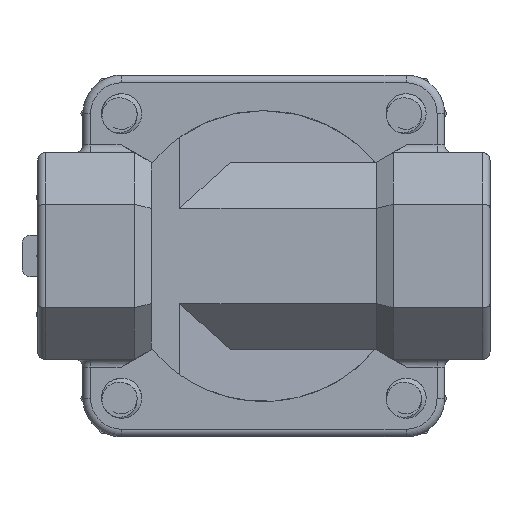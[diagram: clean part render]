
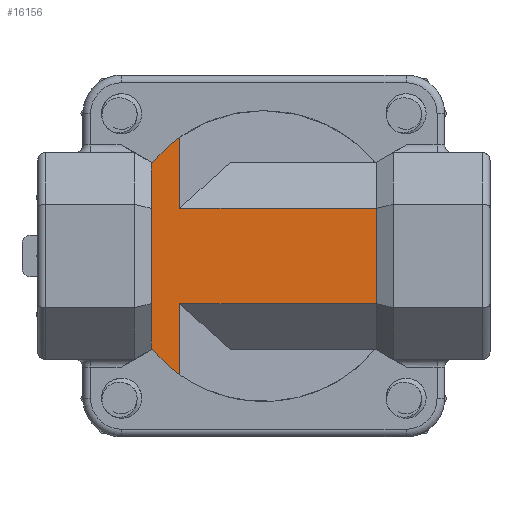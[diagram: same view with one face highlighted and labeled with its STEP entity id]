
A CAD part, front view. The second image highlights one B-rep face of the part: STEP entity #16156.
In plain terms, the highlighted planar face has unit normal (0, -1, 0).
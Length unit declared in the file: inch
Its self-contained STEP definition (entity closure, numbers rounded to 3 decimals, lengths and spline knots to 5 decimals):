
#424 = EDGE_CURVE ( 'Defeatured_0_30+Defeatured_0_43+Defeatured_0_74+Defeatured_0_31', #16525, #12071, #10242, .T. ) ;
#954 = ORIENTED_EDGE ( 'NONE', *, *, #8203, .T. ) ;
#1552 = ORIENTED_EDGE ( 'NONE', *, *, #31944, .T. ) ;
#2005 = LINE ( 'NONE', #34427, #12374 ) ;
#2135 = CARTESIAN_POINT ( 'NONE',  ( 0., -1.35811, 0. ) ) ;
#2502 = CARTESIAN_POINT ( 'NONE',  ( -0.51112, -1.35811, 0.72371 ) ) ;
#2695 = CARTESIAN_POINT ( 'NONE',  ( -0.686, -1.35811, -0.56071 ) ) ;
#3278 = VERTEX_POINT ( 'NONE', #2695 ) ;
#4910 = PLANE ( 'NONE',  #8140 ) ;
#5324 = DIRECTION ( 'NONE',  ( 0., 0., 1. ) ) ;
#5579 = DIRECTION ( 'NONE',  ( 0., 0., 1. ) ) ;
#5676 = EDGE_CURVE ( 'Defeatured_0_43+Defeatured_0_31+Defeatured_0_34+Defeatured_0_30', #19292, #12071, #30417, .T. ) ;
#5938 = EDGE_CURVE ( 'Defeatured_0_29+Defeatured_0_43+Defeatured_0_32+Defeatured_0_76', #3278, #6755, #26583, .T. ) ;
#6140 = AXIS2_PLACEMENT_3D ( 'NONE', #2135, #7715, #21427 ) ;
#6755 = VERTEX_POINT ( 'NONE', #18974 ) ;
#7421 = FACE_OUTER_BOUND ( 'NONE', #13028, .T. ) ;
#7715 = DIRECTION ( 'NONE',  ( 0., -1., 0. ) ) ;
#7796 = ORIENTED_EDGE ( 'NONE', *, *, #33052, .T. ) ;
#8140 = AXIS2_PLACEMENT_3D ( 'NONE', #12791, #24010, #18482 ) ;
#8203 = EDGE_CURVE ( 'Defeatured_0_43+Defeatured_0_42+Defeatured_0_33+Defeatured_0_70', #10925, #27782, #17290, .T. ) ;
#9406 = EDGE_CURVE ( 'Defeatured_0_43+Defeatured_0_75+Defeatured_0_30+Defeatured_0_29', #16525, #6755, #2005, .T. ) ;
#9468 = CARTESIAN_POINT ( 'NONE',  ( -0.51112, -1.35811, 0. ) ) ;
#9642 = ORIENTED_EDGE ( 'NONE', *, *, #22944, .T. ) ;
#10242 = LINE ( 'NONE', #29765, #10889 ) ;
#10889 = VECTOR ( 'NONE', #29396, 39.37008 ) ;
#10925 = VERTEX_POINT ( 'NONE', #19682 ) ;
#10948 = CARTESIAN_POINT ( 'NONE',  ( -0.51112, -1.35811, 0.29061 ) ) ;
#11182 = EDGE_CURVE ( 'Defeatured_0_43+Defeatured_0_32+Defeatured_0_29+Defeatured_0_33', #3278, #25370, #22119, .T. ) ;
#11376 = CARTESIAN_POINT ( 'NONE',  ( 0.686, -1.35811, -0.29061 ) ) ;
#12071 = VERTEX_POINT ( 'NONE', #31159 ) ;
#12175 = VECTOR ( 'NONE', #14756, 39.37008 ) ;
#12374 = VECTOR ( 'NONE', #17761, 39.37008 ) ;
#12632 = ORIENTED_EDGE ( 'NONE', *, *, #9406, .T. ) ;
#12791 = CARTESIAN_POINT ( 'NONE',  ( -2.46234, -1.35811, 0.29061 ) ) ;
#13028 = EDGE_LOOP ( 'NONE', ( #954, #7796, #29804, #1552, #18671, #30918, #12632, #31060, #17057, #9642 ) ) ;
#14258 = CARTESIAN_POINT ( 'NONE',  ( -2.46234, -1.35811, -0.29061 ) ) ;
#14756 = DIRECTION ( 'NONE',  ( 1., 0., 0. ) ) ;
#14945 = LINE ( 'NONE', #20457, #12175 ) ;
#15176 = CARTESIAN_POINT ( 'NONE',  ( 0., -1.35811, 0. ) ) ;
#15349 = LINE ( 'NONE', #23537, #28802 ) ;
#16156 = ADVANCED_FACE ( 'Defeatured_0_43', ( #7421 ), #4910, .T. ) ;
#16525 = VERTEX_POINT ( 'NONE', #16562 ) ;
#16562 = CARTESIAN_POINT ( 'NONE',  ( -0.686, -1.35811, 0.29061 ) ) ;
#16804 = EDGE_CURVE ( 'Defeatured_0_36+Defeatured_0_43+Defeatured_0_34+Defeatured_0_71', #28056, #24798, #14945, .T. ) ;
#17057 = ORIENTED_EDGE ( 'NONE', *, *, #11182, .T. ) ;
#17290 = LINE ( 'NONE', #14258, #33497 ) ;
#17761 = DIRECTION ( 'NONE',  ( 0., 0., -1. ) ) ;
#18068 = CARTESIAN_POINT ( 'NONE',  ( -0.51112, -1.35811, -0.72371 ) ) ;
#18482 = DIRECTION ( 'NONE',  ( 0., 0., -1. ) ) ;
#18671 = ORIENTED_EDGE ( 'NONE', *, *, #5676, .T. ) ;
#18974 = CARTESIAN_POINT ( 'NONE',  ( -0.686, -1.35811, -0.29061 ) ) ;
#19261 = VECTOR ( 'NONE', #5579, 39.37008 ) ;
#19292 = VERTEX_POINT ( 'NONE', #2502 ) ;
#19682 = CARTESIAN_POINT ( 'NONE',  ( -0.51112, -1.35811, -0.29061 ) ) ;
#20457 = CARTESIAN_POINT ( 'NONE',  ( -2.46234, -1.35811, 0.29061 ) ) ;
#21359 = CARTESIAN_POINT ( 'NONE',  ( -0.686, -1.35811, 0. ) ) ;
#21427 = DIRECTION ( 'NONE',  ( 0., 0., -1. ) ) ;
#22119 = CIRCLE ( 'NONE', #6140, 0.886 ) ;
#22393 = AXIS2_PLACEMENT_3D ( 'NONE', #15176, #23542, #23355 ) ;
#22665 = DIRECTION ( 'NONE',  ( 0., 0., 1. ) ) ;
#22944 = EDGE_CURVE ( 'Defeatured_0_43+Defeatured_0_33+Defeatured_0_32+Defeatured_0_42', #25370, #10925, #26088, .T. ) ;
#23355 = DIRECTION ( 'NONE',  ( 0., 0., -1. ) ) ;
#23537 = CARTESIAN_POINT ( 'NONE',  ( 0.686, -1.35811, 0.315 ) ) ;
#23542 = DIRECTION ( 'NONE',  ( 0., -1., 0. ) ) ;
#24010 = DIRECTION ( 'NONE',  ( 0., -1., 0. ) ) ;
#24798 = VERTEX_POINT ( 'NONE', #35230 ) ;
#25220 = VECTOR ( 'NONE', #22665, 39.37008 ) ;
#25235 = LINE ( 'NONE', #29948, #19261 ) ;
#25370 = VERTEX_POINT ( 'NONE', #18068 ) ;
#26088 = LINE ( 'NONE', #9468, #25220 ) ;
#26583 = LINE ( 'NONE', #21359, #27004 ) ;
#27004 = VECTOR ( 'NONE', #35383, 39.37008 ) ;
#27782 = VERTEX_POINT ( 'NONE', #11376 ) ;
#28056 = VERTEX_POINT ( 'NONE', #10948 ) ;
#28802 = VECTOR ( 'NONE', #5324, 39.37008 ) ;
#29396 = DIRECTION ( 'NONE',  ( 0., 0., 1. ) ) ;
#29765 = CARTESIAN_POINT ( 'NONE',  ( -0.686, -1.35811, 0. ) ) ;
#29804 = ORIENTED_EDGE ( 'NONE', *, *, #16804, .F. ) ;
#29948 = CARTESIAN_POINT ( 'NONE',  ( -0.51112, -1.35811, 0. ) ) ;
#30417 = CIRCLE ( 'NONE', #22393, 0.886 ) ;
#30897 = DIRECTION ( 'NONE',  ( 1., 0., 0. ) ) ;
#30918 = ORIENTED_EDGE ( 'NONE', *, *, #424, .F. ) ;
#31060 = ORIENTED_EDGE ( 'NONE', *, *, #5938, .F. ) ;
#31159 = CARTESIAN_POINT ( 'NONE',  ( -0.686, -1.35811, 0.56071 ) ) ;
#31944 = EDGE_CURVE ( 'Defeatured_0_43+Defeatured_0_34+Defeatured_0_36+Defeatured_0_31', #28056, #19292, #25235, .T. ) ;
#33052 = EDGE_CURVE ( 'Defeatured_0_43+Defeatured_0_70+Defeatured_0_42+Defeatured_0_36', #27782, #24798, #15349, .T. ) ;
#33497 = VECTOR ( 'NONE', #30897, 39.37008 ) ;
#34427 = CARTESIAN_POINT ( 'NONE',  ( -0.686, -1.35811, 0. ) ) ;
#35230 = CARTESIAN_POINT ( 'NONE',  ( 0.686, -1.35811, 0.29061 ) ) ;
#35383 = DIRECTION ( 'NONE',  ( 0., 0., 1. ) ) ;
